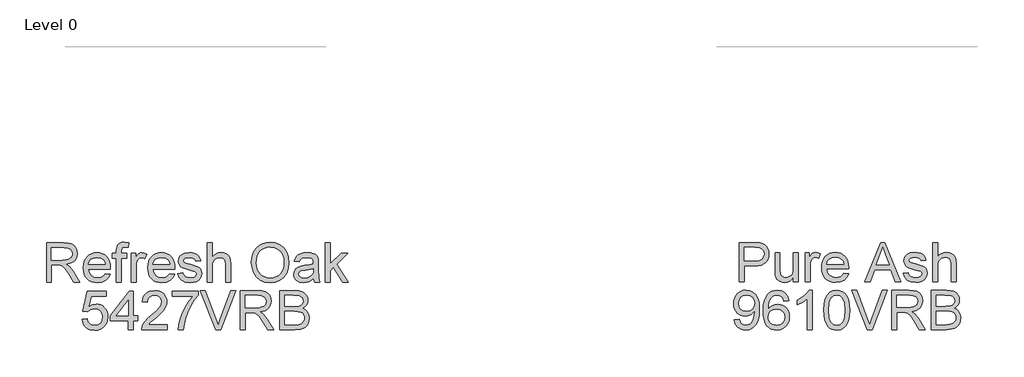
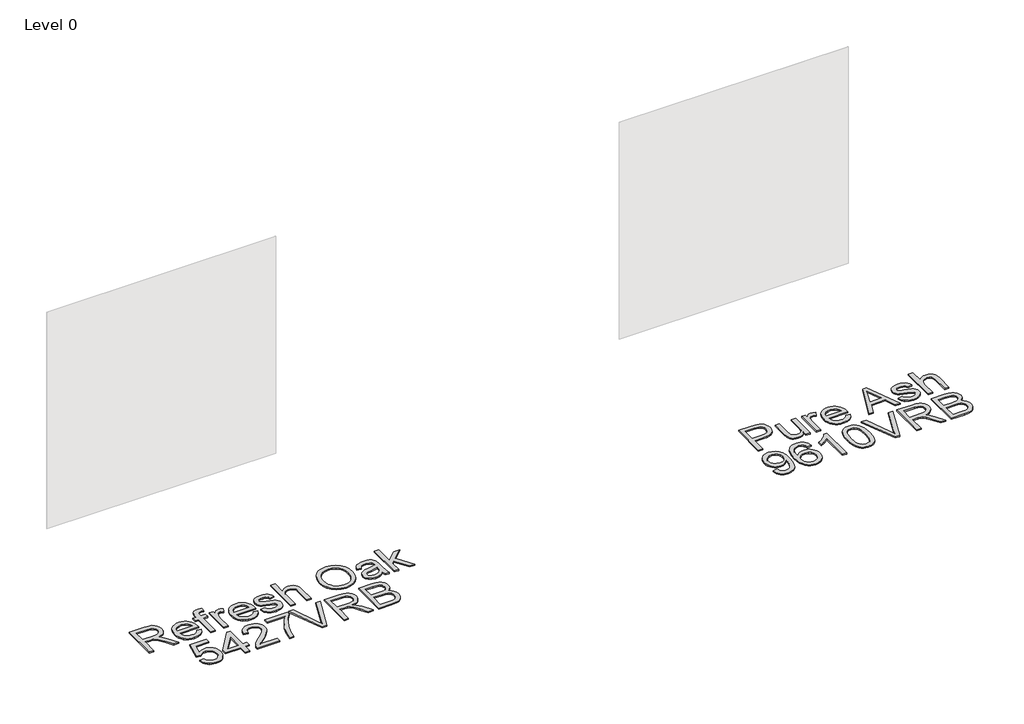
# One storey, part 16 of 43: 2 proxies.
"""IFC4 building model written with IfcOpenShell, lengths in millimetres."""

from ifc_helpers import new_model, si_unit, origin, origin_with_axes, place, context, project, spatial, polyline, outline, extrude, element, save

model = new_model("IFC4")

# Units and contexts
model_context = context("Model", 3, world=origin())
ifc_project = project(units=[si_unit("LENGTHUNIT", "METRE", prefix="MILLI")], contexts=[model_context])

# Site, building, storey
site = spatial("IfcSite", under=ifc_project)
building = spatial("IfcBuilding", under=site)
storey = spatial("IfcBuildingStorey", under=building, Name="Level 0", Elevation=0.0)

# Proxies
placement = place(None, origin())
element("IfcBuildingElementProxy", 1, Name="300mm Arial", ObjectType="300mm Arial", at=placement, inside=storey, context=model_context, shape_type="SweptSolid", body=[
    extrude(outline(polyline([(-594.9182141, -37030.0303751), (-594.9182141, -36728.6614447), (-465.0558698, -36728.6614447), (-430.1530655, -36730.6939927), (-404.7600108, -36736.7916368), (-386.2003641, -36748.0488258), (-371.797784, -36765.5600088), (-362.5547489, -36787.2742436), (-359.4737372, -36811.140588), (-364.5780999, -36840.828665), (-379.8911879, -36865.4399705), (-391.4909671, -36875.4693534), (-405.8728538, -36883.4845823), (-442.9829501, -36893.4725785), (-421.572218, -36909.5858099), (-391.0380124, -36948.3605722), (-340.7853318, -37030.0303751), (-384.5632893, -37030.0303751), (-423.7795099, -36967.5640123), (-452.1064236, -36926.2140761), (-472.0088395, -36906.6795421), (-489.9246927, -36899.5058432), (-511.7768832, -36898.181468), (-557.2470978, -36898.181468), (-557.2470978, -37030.0303751), (-594.9182141, -37030.0303751)]), holes=[polyline([(-557.2470978, -36860.5103517), (-472.9285445, -36860.5103517), (-448.7127122, -36859.1767795), (-429.9231393, -36855.1760628), (-415.7780766, -36848.2414872), (-405.4957748, -36838.1063382), (-399.2325838, -36825.8466707), (-397.1448535, -36812.5385396), (-401.1271761, -36794.1628339), (-413.0741439, -36779.3555836), (-433.6295504, -36769.5883166), (-463.437189, -36766.332561), (-557.2470978, -36766.332561), (-557.2470978, -36860.5103517)])]), origin_with_axes(), (0.0, 0.0, 1.0), 10.0),
    extrude(outline(polyline([(-143.3062768, -36964.1059216), (-106.3709245, -36968.8148111), (-119.6790557, -36996.6450841), (-140.9150439, -37017.4488109), (-169.6006424, -37030.4166512), (-205.2576048, -37034.7392647), (-228.6319071, -37032.8745628), (-249.4586265, -37027.2804572), (-267.7377632, -37017.9569479), (-283.469317, -37004.9040349), (-296.1198591, -36988.4850016), (-305.1559606, -36969.0631315), (-310.5776215, -36946.6384246), (-312.3848418, -36921.2108809), (-310.5592274, -36894.9211139), (-305.0823842, -36871.7491467), (-295.9543122, -36851.6949794), (-283.1750114, -36834.7586121), (-267.4848443, -36821.3033281), (-249.6241734, -36811.692411), (-229.5929988, -36805.9258607), (-207.3913204, -36804.0036773), (-185.9047126, -36805.9212622), (-166.4736455, -36811.6740169), (-149.098119, -36821.2619414), (-133.7781332, -36834.6850357), (-121.2724446, -36851.5846148), (-112.3398099, -36871.6019939), (-106.9802291, -36894.7371729), (-105.1937021, -36920.9901518), (-105.4144313, -36931.1436948), (-274.7137255, -36931.1436948), (-268.1930171, -36959.3418497), (-253.045476, -36980.0720002), (-231.1840884, -36992.8191113), (-204.5218408, -36997.0681484), (-184.4722721, -36995.0999797), (-167.5864885, -36989.1954737), (-153.8644901, -36978.9867483), (-143.3062768, -36964.1059216)]), holes=[polyline([(-274.7137255, -36893.4725785), (-142.8648184, -36893.4725785), (-147.9599841, -36873.5701626), (-157.9479802, -36859.3331294), (-179.9105353, -36846.0893775), (-207.5384732, -36841.6747936), (-232.9315279, -36845.1972637), (-253.9283928, -36855.764674), (-268.5241109, -36872.2365903), (-274.7137255, -36893.4725785)])]), origin_with_axes(), (0.0, 0.0, 1.0), 10.0),
    extrude(outline(polyline([(-58.1048067, -37030.0303751), (-58.1048067, -36846.3836831), (-91.0670335, -36846.3836831), (-91.0670335, -36808.7125668), (-58.1048067, -36808.7125668), (-58.1048067, -36786.4189179), (-54.1316812, -36755.0017955), (-46.5533121, -36742.4754136), (-34.8546646, -36732.5609938), (-18.4839159, -36726.1046648), (3.1107573, -36723.9525551), (37.4709356, -36728.0728335), (31.9527057, -36763.389505), (10.247668, -36761.6236714), (-4.0721387, -36763.1871699), (-13.4807207, -36767.8776654), (-18.695448, -36776.8355919), (-20.4336904, -36791.2013839), (-20.4336904, -36808.7125668), (21.9463154, -36808.7125668), (21.9463154, -36846.3836831), (-20.4336904, -36846.3836831), (-20.4336904, -37030.0303751), (-58.1048067, -37030.0303751)])), origin_with_axes(), (0.0, 0.0, 1.0), 10.0),
    extrude(outline(polyline([(54.9085422, -37030.0303751), (54.9085422, -36808.7125668), (87.8707689, -36808.7125668), (87.8707689, -36841.4540644), (100.047663, -36822.4713534), (111.2680638, -36811.2877408), (122.5252529, -36805.8246932), (134.8125115, -36804.0036773), (153.5744933, -36806.909945), (172.6307806, -36815.6287483), (160.0492164, -36849.4003155), (146.8054646, -36843.6061741), (133.5617127, -36841.6747936), (122.3137207, -36843.5325977), (112.2613452, -36849.1060099), (104.1403502, -36857.971966), (98.6864996, -36869.7074016), (94.1063688, -36890.7502517), (92.5796585, -36913.7060882), (92.5796585, -37030.0303751), (54.9085422, -37030.0303751)])), origin_with_axes(), (0.0, 0.0, 1.0), 10.0),
    extrude(outline(polyline([(351.1271247, -36964.1059216), (388.062477, -36968.8148111), (374.7543458, -36996.6450841), (353.5183577, -37017.4488109), (324.8327591, -37030.4166512), (289.1757967, -37034.7392647), (265.8014944, -37032.8745628), (244.974775, -37027.2804572), (226.6956383, -37017.9569479), (210.9640845, -37004.9040349), (198.3135424, -36988.4850016), (189.2774409, -36969.0631315), (183.85578, -36946.6384246), (182.0485597, -36921.2108809), (183.8741741, -36894.9211139), (189.3510173, -36871.7491467), (198.4790893, -36851.6949794), (211.2583901, -36834.7586121), (226.9485572, -36821.3033281), (244.8092281, -36811.692411), (264.8404027, -36805.9258607), (287.0420811, -36804.0036773), (308.5286889, -36805.9212622), (327.959756, -36811.6740169), (345.3352825, -36821.2619414), (360.6552684, -36834.6850357), (373.1609569, -36851.5846148), (382.0935916, -36871.6019939), (387.4531725, -36894.7371729), (389.2396994, -36920.9901518), (389.0189702, -36931.1436948), (219.719676, -36931.1436948), (226.2403844, -36959.3418497), (241.3879255, -36980.0720002), (263.2493131, -36992.8191113), (289.9115607, -36997.0681484), (309.9611294, -36995.0999797), (326.846913, -36989.1954737), (340.5689114, -36978.9867483), (351.1271247, -36964.1059216)]), holes=[polyline([(219.719676, -36893.4725785), (351.5685831, -36893.4725785), (346.4734175, -36873.5701626), (336.4854213, -36859.3331294), (314.5228662, -36846.0893775), (286.8949283, -36841.6747936), (261.5018736, -36845.1972637), (240.5050087, -36855.764674), (225.9092906, -36872.2365903), (219.719676, -36893.4725785)])]), origin_with_axes(), (0.0, 0.0, 1.0), 10.0),
    extrude(outline(polyline([(412.7841471, -36964.1059216), (450.4552634, -36959.397032), (456.3965576, -36975.5102634), (467.89287, -36987.3560637), (485.0177768, -36994.6401272), (507.8448546, -36997.0681484), (530.3960209, -36994.8424623), (546.2517349, -36988.1654041), (555.6327258, -36978.4901076), (558.7597228, -36967.2697067), (555.6143317, -36957.6679867), (546.1781585, -36950.347135), (507.4033962, -36939.6049807), (450.6759926, -36921.1740927), (436.3193977, -36911.9126635), (425.9175343, -36899.652996), (419.599161, -36885.1768395), (417.4930366, -36869.2659432), (419.1852938, -36854.6702251), (424.2620653, -36841.196547), (432.2634987, -36829.3783379), (442.7297415, -36819.7490267), (466.6788594, -36808.6022022), (499.0892632, -36804.0036773), (523.6085981, -36805.8522843), (544.9273598, -36811.3981054), (562.0706607, -36820.0985146), (574.0636138, -36831.4108859), (582.0098649, -36846.172151), (587.01306, -36865.2192413), (549.3419437, -36869.9281308), (544.5870689, -36858.0731335), (535.1784869, -36849.1427981), (521.0242271, -36843.5417947), (502.0323191, -36841.6747936), (480.4008578, -36843.4590213), (465.9798836, -36848.8117043), (457.8680856, -36856.5372262), (455.1641529, -36865.4399705), (459.6523133, -36876.4028539), (473.7054055, -36884.716987), (506.1525975, -36892.7368145), (561.4452613, -36910.4687267), (576.0501765, -36918.9484067), (587.1234246, -36930.5550836), (594.1039855, -36945.3255457), (596.4308391, -36963.2965812), (593.6993153, -36981.874622), (585.5047438, -36999.3490167), (572.1598244, -37014.3494051), (553.9772568, -37025.5054266), (532.0147017, -37032.4308051), (507.3298198, -37034.7392647), (469.3460038, -37030.2878925), (441.6260955, -37016.9337761), (423.1216311, -36994.8240682), (412.7841471, -36964.1059216)])), origin_with_axes(), (0.0, 0.0, 1.0), 10.0),
    extrude(outline(polyline([(638.8108449, -37030.0303751), (638.8108449, -36728.6614447), (676.4819612, -36728.6614447), (676.4819612, -36839.4675016), (690.3189228, -36823.9520785), (705.8573385, -36812.8696334), (723.0972085, -36806.2201663), (742.0385328, -36804.0036773), (764.7920342, -36806.4225014), (784.3449622, -36813.6789738), (799.7408237, -36825.2028773), (810.0231255, -36840.4239948), (815.8172669, -36861.3380862), (817.7486474, -36889.9409114), (817.7486474, -37030.0303751), (780.0775311, -37030.0303751), (780.0775311, -36893.8404605), (777.0792928, -36870.2592246), (768.084578, -36854.109205), (753.5900274, -36844.7833964), (734.0922817, -36841.6747936), (718.1721883, -36843.771721), (703.2269823, -36850.0625031), (690.8477531, -36859.9401347), (682.6255905, -36872.7976104), (678.0178686, -36889.8857291), (676.4819612, -36912.4552895), (676.4819612, -37030.0303751), (638.8108449, -37030.0303751)])), origin_with_axes(), (0.0, 0.0, 1.0), 10.0),
    extrude(outline(polyline([(977.8508917, -36883.3190354), (980.3616863, -36847.9701742), (987.8940701, -36816.677212), (1000.4480432, -36789.4401488), (1018.0236055, -36766.2589846), (1039.5676949, -36747.7499217), (1064.027249, -36734.5291625), (1091.402268, -36726.596707), (1121.6927518, -36723.9525551), (1161.2216722, -36728.9189621), (1196.6671024, -36743.8181829), (1226.097662, -36767.6017539), (1247.5819705, -36799.2212113), (1260.7153578, -36837.149845), (1265.0931535, -36879.8609447), (1260.4854315, -36923.1422614), (1246.6622656, -36961.604324), (1224.3870107, -36993.2789638), (1194.4230222, -37016.1980121), (1159.2810946, -37030.1039515), (1121.4720226, -37034.7392647), (1081.3360969, -37029.6165079), (1045.6883316, -37014.2482375), (1016.3313484, -36990.0232081), (995.067769, -36958.3301743), (982.155111, -36921.8638715), (977.8508917, -36883.3190354)]), holes=[polyline([(1015.522008, -36883.6869174), (1017.4051039, -36908.6615064), (1023.0543918, -36930.8309951), (1032.4698716, -36950.1953836), (1045.6515434, -36966.754672), (1061.6751035, -36980.0168179), (1079.6162486, -36989.4897793), (1099.4749785, -36995.1735561), (1121.2512934, -36997.0681484), (1143.4000888, -36995.155162), (1163.4933435, -36989.4162029), (1181.5310576, -36979.851271), (1197.513231, -36966.4603664), (1210.5983337, -36949.5515902), (1219.9448357, -36929.4330435), (1225.5527368, -36906.1047265), (1227.4220372, -36879.5666391), (1224.2214638, -36846.2181362), (1214.6197438, -36817.3945819), (1198.8651973, -36793.8225431), (1177.2061449, -36776.2285866), (1151.0773262, -36765.2749002), (1121.913481, -36761.6236714), (1100.8936235, -36763.3826072), (1081.3912792, -36768.6594146), (1063.4064482, -36777.4540935), (1046.9391304, -36789.7666441), (1033.1941393, -36806.1902759), (1023.3762886, -36827.3181987), (1017.4855781, -36853.1504126), (1015.522008, -36883.6869174)])]), origin_with_axes(), (0.0, 0.0, 1.0), 10.0),
    extrude(outline(polyline([(1453.448735, -37001.7770379), (1435.4501084, -37017.2096876), (1416.9180529, -37027.3080484), (1397.4295042, -37032.8814606), (1376.561398, -37034.7392647), (1345.0798963, -37030.2694984), (1321.8573454, -37016.8601997), (1307.5375387, -36996.4979313), (1302.7642698, -36971.1692559), (1304.5668916, -36955.5526652), (1309.9747569, -36941.3708143), (1318.3164812, -36929.2307084), (1328.9206797, -36919.739353), (1355.2978187, -36907.3785179), (1387.8921635, -36901.7131352), (1426.4094084, -36895.7534469), (1453.2280058, -36888.763689), (1453.448735, -36880.3759795), (1450.855167, -36863.5637723), (1443.0744628, -36852.5641006), (1425.6736444, -36844.3971204), (1401.4302209, -36841.6747936), (1378.9894192, -36843.4866124), (1363.3176462, -36848.9220689), (1352.6306743, -36858.9744444), (1345.1442757, -36874.6370204), (1307.4731594, -36869.9281308), (1314.0122618, -36849.3267391), (1323.7703317, -36833.1399313), (1337.6578771, -36820.7607022), (1356.5854057, -36811.5820464), (1379.7343803, -36805.8982696), (1406.2862633, -36804.0036773), (1431.7528944, -36805.6775404), (1451.9404189, -36810.6991296), (1467.1615364, -36818.2499075), (1477.7289467, -36827.5113368), (1484.7370987, -36838.9616639), (1489.2804414, -36853.0791354), (1491.1198513, -36886.0413622), (1491.1198513, -36932.9095284), (1493.0328377, -36998.3557353), (1500.5376304, -37030.0303751), (1462.8665141, -37030.0303751), (1453.448735, -37001.7770379)]), holes=[polyline([(1453.448735, -36926.4348053), (1392.6746294, -36937.9862999), (1360.2642257, -36944.093141), (1345.5857341, -36954.0259549), (1340.4353861, -36968.5205055), (1343.2404863, -36979.7225123), (1351.655787, -36988.9011681), (1365.497347, -36995.0264033), (1384.5812255, -36997.0681484), (1404.8147353, -36994.8148711), (1422.6938002, -36988.0550395), (1437.1883509, -36978.0946345), (1447.2683175, -36966.2396372), (1451.7380838, -36954.0259549), (1453.2280058, -36937.1033831), (1453.448735, -36926.4348053)])]), origin_with_axes(), (0.0, 0.0, 1.0), 10.0),
    extrude(outline(polyline([(1542.9176363, -37030.0303751), (1542.9176363, -36728.6614447), (1580.5887526, -36728.6614447), (1580.5887526, -36890.6030989), (1665.0544587, -36808.7125668), (1717.1465492, -36808.7125668), (1631.6507735, -36891.6331685), (1721.8554387, -37030.0303751), (1677.8567521, -37030.0303751), (1604.6482351, -36917.8263666), (1580.5887526, -36941.1500851), (1580.5887526, -37030.0303751), (1542.9176363, -37030.0303751)])), origin_with_axes(), (0.0, 0.0, 1.0), 10.0),
    extrude(outline(polyline([(-321.8026209, -37315.9037065), (-284.1315046, -37311.194817), (-277.2153231, -37333.8103626), (-265.1487936, -37350.0063675), (-247.9870986, -37359.7460433), (-225.7854201, -37362.9926019), (-198.7828817, -37358.4768504), (-178.549372, -37344.9295959), (-165.9126254, -37323.914337), (-161.7003766, -37296.994572), (-165.645911, -37271.6475025), (-177.4825142, -37252.2601213), (-197.3021567, -37239.9544686), (-225.196809, -37235.8525844), (-243.4713471, -37237.4896592), (-258.2694003, -37242.4008839), (-279.422615, -37259.397032), (-317.0937313, -37254.6881425), (-284.1315046, -37099.2947877), (-138.1559289, -37099.2947877), (-138.1559289, -37136.9659041), (-253.6708754, -37136.9659041), (-269.7841068, -37219.9600822), (-242.8735388, -37203.6261216), (-214.6753839, -37198.181468), (-196.3295686, -37199.8691267), (-179.478274, -37204.9321027), (-164.1215, -37213.3703959), (-150.2592465, -37225.1840065), (-138.7836275, -37239.650966), (-130.5867568, -37256.0493059), (-125.6686344, -37274.3790263), (-124.0292603, -37294.6401272), (-129.9337663, -37332.3112435), (-137.3143988, -37349.1050566), (-147.6472844, -37364.5377063), (-163.3006633, -37380.3428365), (-181.5660043, -37391.6322152), (-202.4433076, -37398.4058424), (-225.9325729, -37400.6637182), (-262.9323046, -37394.8603797), (-278.6109754, -37387.6062066), (-292.4088495, -37377.4503643), (-303.889067, -37364.8986905), (-312.6147681, -37350.4570229), (-321.8026209, -37315.9037065)])), origin_with_axes(), (0.0, 0.0, 1.0), 10.0),
    extrude(outline(polyline([(31.3640945, -37395.9548287), (31.3640945, -37325.3214856), (-105.1937021, -37325.3214856), (-105.1937021, -37287.6503693), (40.7818736, -37099.2947877), (69.0352108, -37099.2947877), (69.0352108, -37287.6503693), (106.7063271, -37287.6503693), (106.7063271, -37325.3214856), (69.0352108, -37325.3214856), (69.0352108, -37395.9548287), (31.3640945, -37395.9548287)]), holes=[polyline([(31.3640945, -37287.6503693), (31.3640945, -37171.252506), (-58.8405707, -37287.6503693), (31.3640945, -37287.6503693)])]), origin_with_axes(), (0.0, 0.0, 1.0), 10.0),
    extrude(outline(polyline([(332.7330249, -37358.2837124), (332.7330249, -37395.9548287), (134.9596643, -37395.9548287), (139.0063663, -37369.9823598), (148.2953867, -37349.6844707), (161.8886264, -37329.9935869), (181.551919, -37309.3829981), (209.0510982, -37286.3259941), (249.7020586, -37250.2183763), (274.0926349, -37223.5653257), (286.287923, -37201.9338644), (290.3530191, -37180.8910143), (286.5178493, -37162.027865), (275.0123399, -37146.3468949), (257.326413, -37135.7794846), (234.9499906, -37132.2570145), (211.4515282, -37135.6967112), (193.1953842, -37146.0158011), (181.4139633, -37162.404944), (177.3396702, -37184.0547994), (139.6685539, -37179.3459099), (148.8012244, -37142.9071983), (157.347583, -37128.3712609), (168.5472905, -37116.2909359), (182.1428295, -37106.7949819), (197.8766826, -37100.0121576), (235.759331, -37094.5858982), (255.9491548, -37096.0942144), (273.917891, -37100.6191629), (289.6655396, -37108.1607438), (303.1921007, -37118.7189571), (314.0561159, -37131.5120535), (321.8161267, -37145.7582837), (326.4721332, -37161.4576479), (328.0241354, -37178.6101459), (326.3502723, -37196.6271666), (321.3286831, -37214.3314876), (312.4167417, -37232.3393113), (299.0718224, -37251.26684), (277.799046, -37273.8639915), (245.1035337, -37302.8806839), (201.7670346, -37339.1170604), (184.7708865, -37358.2837124), (332.7330249, -37358.2837124)])), origin_with_axes(), (0.0, 0.0, 1.0), 10.0),
    extrude(outline(polyline([(370.4041412, -37136.9659041), (370.4041412, -37099.2947877), (568.1775018, -37099.2947877), (568.1775018, -37129.7554169), (539.988544, -37165.4307734), (512.0754976, -37210.7998205), (487.4549951, -37261.7238857), (469.1436687, -37314.0642965), (460.1673481, -37353.2253349), (455.1641529, -37395.9548287), (417.4930366, -37395.9548287), (421.5673297, -37357.1248841), (432.4658338, -37310.9740878), (449.8942433, -37262.0549795), (473.5582527, -37214.9200988), (501.1861905, -37172.3101667), (530.5063855, -37136.9659041), (370.4041412, -37136.9659041)])), origin_with_axes(), (0.0, 0.0, 1.0), 10.0),
    extrude(outline(polyline([(704.2938401, -37395.9548287), (584.3643096, -37094.5858982), (624.6841763, -37094.5858982), (704.9560277, -37311.7098518), (721.2164118, -37360.6381571), (737.2560668, -37311.7098518), (817.7486474, -37094.5858982), (858.068514, -37094.5858982), (743.2157552, -37395.9548287), (704.2938401, -37395.9548287)])), origin_with_axes(), (0.0, 0.0, 1.0), 10.0),
    extrude(outline(polyline([(893.09088, -37395.9548287), (893.09088, -37094.5858982), (1022.9532243, -37094.5858982), (1057.8560286, -37096.6184462), (1083.2490833, -37102.7160903), (1101.8087299, -37113.9732794), (1116.2113101, -37131.4844623), (1125.4543452, -37153.1986971), (1128.5353569, -37177.0650415), (1123.4309942, -37206.7531185), (1108.1179062, -37231.364424), (1096.518127, -37241.3938069), (1082.1362403, -37249.4090359), (1045.026144, -37259.397032), (1066.4368761, -37275.5102634), (1096.9710817, -37314.2850257), (1147.2237623, -37395.9548287), (1103.4458048, -37395.9548287), (1064.2295841, -37333.4884659), (1035.9026705, -37292.1385296), (1016.0002546, -37272.6039957), (998.0844014, -37265.4302968), (976.2322109, -37264.1059216), (930.7619963, -37264.1059216), (930.7619963, -37395.9548287), (893.09088, -37395.9548287)]), holes=[polyline([(930.7619963, -37226.4348053), (1015.0805496, -37226.4348053), (1039.2963819, -37225.101233), (1058.0859548, -37221.1005163), (1072.2310175, -37214.1659407), (1082.5133193, -37204.0307918), (1088.7765103, -37191.7711243), (1090.8642406, -37178.4629931), (1086.881918, -37160.0872874), (1074.9349502, -37145.2800371), (1054.3795437, -37135.5127702), (1024.5719051, -37132.2570145), (930.7619963, -37132.2570145), (930.7619963, -37226.4348053)])]), origin_with_axes(), (0.0, 0.0, 1.0), 10.0),
    extrude(outline(polyline([(1194.4598104, -37395.9548287), (1194.4598104, -37094.5858982), (1309.4597221, -37094.5858982), (1341.0883767, -37096.8023872), (1365.7824556, -37103.4518543), (1384.7099842, -37114.6998463), (1399.038988, -37130.7119101), (1408.0612939, -37149.5474683), (1411.0687292, -37169.2659432), (1408.5395405, -37187.4117226), (1400.9519743, -37204.4722502), (1388.2508484, -37219.3990621), (1370.3809805, -37231.1436948), (1391.7273333, -37242.2905193), (1407.5002738, -37259.2498792), (1417.2399497, -37280.8997347), (1420.4865083, -37306.1180454), (1418.2700193, -37327.1333044), (1411.6205522, -37346.6218531), (1401.6969354, -37363.194937), (1389.6579971, -37375.4638015), (1374.9151261, -37384.3481517), (1356.8797113, -37390.7676925), (1308.5768053, -37395.9548287), (1194.4598104, -37395.9548287)]), holes=[polyline([(1232.1309267, -37358.2837124), (1309.3861457, -37358.2837124), (1337.3451774, -37356.8121844), (1360.9999897, -37348.6084159), (1376.6717626, -37331.8697851), (1381.2794846, -37320.042379), (1382.815392, -37306.4859274), (1381.0127702, -37290.740578), (1375.6049049, -37277.2025206), (1366.1595346, -37266.6167162), (1352.2443982, -37259.7281258), (1332.5351203, -37255.9481383), (1305.7073258, -37254.6881425), (1232.1309267, -37254.6881425), (1232.1309267, -37358.2837124)]), polyline([(1232.1309267, -37217.0170262), (1300.9248598, -37217.0170262), (1341.0975737, -37213.7796646), (1355.159863, -37208.1970554), (1365.2674208, -37199.836937), (1371.3650649, -37188.8280683), (1373.3976129, -37175.2992079), (1371.5030206, -37162.1658207), (1365.8192438, -37150.7246907), (1356.6037998, -37141.7943552), (1344.1142061, -37136.1933519), (1295.7009355, -37132.2570145), (1232.1309267, -37132.2570145), (1232.1309267, -37217.0170262)])]), origin_with_axes(), (0.0, 0.0, 1.0), 10.0),
])
element("IfcBuildingElementProxy", 2, Name="300mm Arial", ObjectType="300mm Arial", at=placement, inside=storey, context=model_context, shape_type="SweptSolid", body=[
    extrude(outline(polyline([(4722.9318297, -37028.0303751), (4722.9318297, -36726.6614447), (4834.6208035, -36726.6614447), (4879.6495597, -36729.5309242), (4899.7267196, -36734.8928043), (4916.2538182, -36743.6208046), (4929.5619494, -36756.1103984), (4939.9822069, -36772.7570587), (4946.7144474, -36792.3927602), (4948.9585276, -36813.8494775), (4947.4433136, -36832.3493434), (4942.8976717, -36849.3684842), (4935.3216019, -36864.9068999), (4924.7151041, -36878.9645907), (4910.1538749, -36890.6172529), (4890.7136107, -36898.940583), (4866.3943115, -36903.9345811), (4837.1959774, -36905.5992471), (4760.602946, -36905.5992471), (4760.602946, -37028.0303751), (4722.9318297, -37028.0303751)]), holes=[polyline([(4760.602946, -36867.9281308), (4839.4032694, -36867.9281308), (4872.8069546, -36864.4700401), (4894.8798743, -36854.0957678), (4907.185527, -36837.4491075), (4911.2874113, -36815.1738527), (4908.8685871, -36798.2512809), (4901.6121148, -36783.9774595), (4890.4193051, -36773.2353053), (4876.1914689, -36766.9077349), (4838.5203526, -36764.332561), (4760.602946, -36764.332561), (4760.602946, -36867.9281308)])]), origin_with_axes(), (0.0, 0.0, 1.0), 10.0),
    extrude(outline(polyline([(5137.3141091, -37028.0303751), (5137.3141091, -36989.9913768), (5123.6840812, -37008.6935777), (5107.8099731, -37022.0522927), (5089.6917848, -37030.0675217), (5069.3295164, -37032.7392647), (5050.9814019, -37030.8630665), (5033.9024803, -37025.234472), (5019.5734765, -37016.7731861), (5009.4751158, -37006.3989138), (4998.2547149, -36978.6606114), (4996.0474229, -36943.6382454), (4996.0474229, -36806.7125668), (5033.7185393, -36806.7125668), (5033.7185393, -36925.9063333), (5035.9994076, -36964.3132136), (5041.4900464, -36977.124704), (5050.8986284, -36986.8643799), (5063.5997543, -36993.0172062), (5078.9680247, -36995.0681484), (5095.2192118, -36992.971221), (5110.4219352, -36986.6804389), (5122.9575142, -36976.7752161), (5131.207268, -36963.834967), (5135.7873988, -36946.1122518), (5137.3141091, -36921.8596313), (5137.3141091, -36806.7125668), (5174.9852254, -36806.7125668), (5174.9852254, -37028.0303751), (5137.3141091, -37028.0303751)])), origin_with_axes(), (0.0, 0.0, 1.0), 10.0),
    extrude(outline(polyline([(5226.7830103, -37028.0303751), (5226.7830103, -36806.7125668), (5259.7452371, -36806.7125668), (5259.7452371, -36839.4540644), (5271.9221311, -36820.4713534), (5283.142532, -36809.2877408), (5294.399721, -36803.8246932), (5306.6869797, -36802.0036773), (5325.4489614, -36804.909945), (5344.5052488, -36813.6287483), (5331.9236845, -36847.4003155), (5318.6799327, -36841.6061741), (5305.4361809, -36839.6747936), (5294.1881889, -36841.5325977), (5284.1358134, -36847.1060099), (5276.0148183, -36855.971966), (5270.5609677, -36867.7074016), (5265.9808369, -36888.7502517), (5264.4541266, -36911.7060882), (5264.4541266, -37028.0303751), (5226.7830103, -37028.0303751)])), origin_with_axes(), (0.0, 0.0, 1.0), 10.0),
    extrude(outline(polyline([(5523.0015928, -36962.1059216), (5559.9369452, -36966.8148111), (5546.628814, -36994.6450841), (5525.3928258, -37015.4488109), (5496.7072272, -37028.4166512), (5461.0502649, -37032.7392647), (5437.6759626, -37030.8745628), (5416.8492431, -37025.2804572), (5398.5701065, -37015.9569479), (5382.8385527, -37002.9040349), (5370.1880106, -36986.4850016), (5361.1519091, -36967.0631315), (5355.7302482, -36944.6384246), (5353.9230279, -36919.2108809), (5355.7486423, -36892.9211139), (5361.2254855, -36869.7491467), (5370.3535575, -36849.6949794), (5383.1328583, -36832.7586121), (5398.8230254, -36819.3033281), (5416.6836962, -36809.692411), (5436.7148709, -36803.9258607), (5458.9165493, -36802.0036773), (5480.4031571, -36803.9212622), (5499.8342242, -36809.6740169), (5517.2097507, -36819.2619414), (5532.5297365, -36832.6850357), (5545.0354251, -36849.5846148), (5553.9680598, -36869.6019939), (5559.3276406, -36892.7371729), (5561.1141675, -36918.9901518), (5560.8934383, -36929.1436948), (5391.5941442, -36929.1436948), (5398.1148525, -36957.3418497), (5413.2623937, -36978.0720002), (5435.1237812, -36990.8191113), (5461.7860288, -36995.0681484), (5481.8355976, -36993.0999797), (5498.7213812, -36987.1954737), (5512.4433796, -36976.9867483), (5523.0015928, -36962.1059216)]), holes=[polyline([(5391.5941442, -36891.4725785), (5523.4430512, -36891.4725785), (5518.3478856, -36871.5701626), (5508.3598894, -36857.3331294), (5486.3973343, -36844.0893775), (5458.7693965, -36839.6747936), (5433.3763418, -36843.1972637), (5412.3794769, -36853.764674), (5397.7837587, -36870.2365903), (5391.5941442, -36891.4725785)])]), origin_with_axes(), (0.0, 0.0, 1.0), 10.0),
    extrude(outline(polyline([(5686.1204695, -37028.0303751), (5806.4178819, -36726.6614447), (5838.4971919, -36726.6614447), (5958.7946043, -37028.0303751), (5918.9897724, -37028.0303751), (5884.4824413, -36933.8525844), (5760.3590561, -36933.8525844), (5725.9253014, -37028.0303751), (5686.1204695, -37028.0303751)]), holes=[polyline([(5774.1914191, -36896.181468), (5870.7236547, -36896.181468), (5843.5739634, -36822.0900342), (5822.4575369, -36764.332561), (5803.6955552, -36815.6153111), (5774.1914191, -36896.181468)])]), origin_with_axes(), (0.0, 0.0, 1.0), 10.0),
    extrude(outline(polyline([(5980.2053364, -36962.1059216), (6017.8764527, -36957.397032), (6023.817747, -36973.5102634), (6035.3140593, -36985.3560637), (6052.4389662, -36992.6401272), (6075.266044, -36995.0681484), (6097.8172103, -36992.8424623), (6113.6729243, -36986.1654041), (6123.0539152, -36976.4901076), (6126.1809121, -36965.2697067), (6123.0355211, -36955.6679867), (6113.5993479, -36948.347135), (6074.8245856, -36937.6049807), (6018.0971819, -36919.1740927), (6003.7405871, -36909.9126635), (5993.3387237, -36897.652996), (5987.0203504, -36883.1768395), (5984.914226, -36867.2659432), (5986.6064832, -36852.6702251), (5991.6832547, -36839.196547), (5999.6846881, -36827.3783379), (6010.1509309, -36817.7490267), (6034.1000487, -36806.6022022), (6066.5104525, -36802.0036773), (6091.0297875, -36803.8522843), (6112.3485491, -36809.3981054), (6129.4918501, -36818.0985146), (6141.4848031, -36829.4108859), (6149.4310542, -36844.172151), (6154.4342494, -36863.2192413), (6116.7631331, -36867.9281308), (6112.0082583, -36856.0731335), (6102.5996762, -36847.1427981), (6088.4454165, -36841.5417947), (6069.4535085, -36839.6747936), (6047.8220472, -36841.4590213), (6033.4010729, -36846.8117043), (6025.289275, -36854.5372262), (6022.5853423, -36863.4399705), (6027.0735026, -36874.4028539), (6041.1265948, -36882.716987), (6073.5737868, -36890.7368145), (6128.8664507, -36908.4687267), (6143.4713659, -36916.9484067), (6154.544614, -36928.5550836), (6161.5251748, -36943.3255457), (6163.8520284, -36961.2965812), (6161.1205046, -36979.874622), (6152.9259332, -36997.3490167), (6139.5810138, -37012.3494051), (6121.3984462, -37023.5054266), (6099.4358911, -37030.4308051), (6074.7510092, -37032.7392647), (6036.7671932, -37028.2878925), (6009.0472849, -37014.9337761), (5990.5428205, -36992.8240682), (5980.2053364, -36962.1059216)])), origin_with_axes(), (0.0, 0.0, 1.0), 10.0),
    extrude(outline(polyline([(6206.2320343, -37028.0303751), (6206.2320343, -36726.6614447), (6243.9031506, -36726.6614447), (6243.9031506, -36837.4675016), (6257.7401121, -36821.9520785), (6273.2785279, -36810.8696334), (6290.5183979, -36804.2201663), (6309.4597221, -36802.0036773), (6332.2132235, -36804.4225014), (6351.7661516, -36811.6789738), (6367.1620131, -36823.2028773), (6377.4443148, -36838.4239948), (6383.2384563, -36859.3380862), (6385.1698367, -36887.9409114), (6385.1698367, -37028.0303751), (6347.4987204, -37028.0303751), (6347.4987204, -36891.8404605), (6344.5004822, -36868.2592246), (6335.5057674, -36852.109205), (6321.0112168, -36842.7833964), (6301.513471, -36839.6747936), (6285.5933777, -36841.771721), (6270.6481716, -36848.0625031), (6258.2689425, -36857.9401347), (6250.0467799, -36870.7976104), (6245.4390579, -36887.8857291), (6243.9031506, -36910.4552895), (6243.9031506, -37028.0303751), (6206.2320343, -37028.0303751)])), origin_with_axes(), (0.0, 0.0, 1.0), 10.0),
    extrude(outline(polyline([(4682.9062687, -37318.612596), (4720.577385, -37313.9037065), (4727.0153199, -37335.2868475), (4737.4999567, -37349.8457774), (4751.7737781, -37358.2058958), (4769.5792667, -37360.9926019), (4785.5545424, -37359.1991772), (4800.0766841, -37353.818903), (4812.1432136, -37345.4403905), (4820.7516522, -37334.652251), (4833.0756991, -37301.9107535), (4838.5203526, -37258.2063724), (4838.2996234, -37250.8487325), (4825.2490096, -37266.7780229), (4808.170088, -37279.3963754), (4788.2952632, -37287.618538), (4766.85694, -37290.3592588), (4748.9617801, -37288.6853957), (4732.5059587, -37283.6638065), (4717.4894755, -37275.2944911), (4703.9123306, -37263.5774496), (4692.6620393, -37249.1242857), (4684.626117, -37232.5466033), (4679.8045636, -37213.8444023), (4678.1973791, -37193.0176829), (4679.8827385, -37171.4965862), (4684.9388167, -37152.1827814), (4693.3656136, -37135.0762687), (4705.1631294, -37120.1770478), (4719.4990309, -37108.1059199), (4735.5409851, -37099.4836856), (4753.2889921, -37094.3103451), (4772.7430519, -37092.5858982), (4800.8400393, -37096.5222356), (4826.417035, -37108.3312476), (4847.809373, -37127.4243232), (4863.3523873, -37153.212851), (4872.8161516, -37188.8606163), (4875.9707397, -37237.5314043), (4872.8253487, -37289.1360512), (4863.3891755, -37329.0236565), (4847.7449936, -37358.9968421), (4825.9755766, -37380.8582296), (4799.0190234, -37394.2123461), (4767.8134331, -37398.6637182), (4735.6053645, -37393.4122027), (4709.9088071, -37377.6576563), (4691.9377716, -37352.3933603), (4682.9062687, -37318.612596)]), holes=[polyline([(4838.2996234, -37192.1347661), (4834.2345274, -37166.6037556), (4822.0392392, -37146.9588571), (4803.1117106, -37134.4324752), (4778.849893, -37130.2570145), (4753.6867645, -37134.7543719), (4733.5268312, -37148.2464441), (4720.2830794, -37168.8938211), (4715.8684954, -37194.8570929), (4720.0439561, -37218.1348261), (4732.570338, -37236.6116993), (4752.2336306, -37248.6690317), (4777.8198234, -37252.6881425), (4801.8885029, -37248.6690317), (4821.266687, -37236.6116993), (4834.0413893, -37217.4542444), (4838.2996234, -37192.1347661)])]), origin_with_axes(), (0.0, 0.0, 1.0), 10.0),
    extrude(outline(polyline([(5101.9974376, -37172.6370204), (5064.3263213, -37177.3459099), (5058.2562683, -37158.6758986), (5050.0524998, -37145.9287875), (5032.9643812, -37134.1749578), (5012.3078071, -37130.2570145), (4994.7966242, -37132.5378829), (4978.3155108, -37139.380488), (4964.161251, -37153.7922652), (4952.6005593, -37173.6303017), (4944.792264, -37201.6905009), (4941.8951933, -37240.7687659), (4957.0059462, -37223.1380212), (4975.1149374, -37210.7128069), (4995.2104914, -37203.3459699), (5016.2809327, -37200.8903576), (5034.3807268, -37202.5688192), (5051.0825694, -37207.604204), (5066.3864604, -37215.996512), (5080.2923998, -37227.7457432), (5091.848493, -37242.1529219), (5100.1028453, -37258.5190721), (5105.0554566, -37276.844194), (5106.7063271, -37297.1282875), (5103.5977242, -37324.1032348), (5094.2719157, -37349.1100134), (5079.5014536, -37370.3184105), (5060.0588901, -37385.898213), (5036.8271421, -37395.4723419), (5010.6891264, -37398.6637182), (4988.2322298, -37396.5483967), (4967.9504356, -37390.2024323), (4949.8437436, -37379.6258249), (4933.912154, -37364.8185746), (4920.9236203, -37345.155282), (4911.6460962, -37320.0105476), (4906.0795818, -37289.3843715), (4904.224077, -37253.2767537), (4906.2842161, -37212.7959387), (4912.4646336, -37178.2472208), (4922.7653295, -37149.6306001), (4937.1863037, -37126.9460766), (4952.81669, -37111.9134985), (4970.9394768, -37101.1759428), (4991.5546641, -37094.7334094), (5014.6622519, -37092.5858982), (5047.7164492, -37097.901793), (5074.1855587, -37113.8494775), (5092.7268113, -37139.1781529), (5101.9974376, -37172.6370204)]), holes=[polyline([(4941.8951933, -37296.5396763), (4944.0748941, -37313.2323219), (4950.6139965, -37329.1708093), (4960.7675396, -37342.8744136), (4973.7905622, -37352.8624098), (4989.5083205, -37358.9600539), (5007.7460704, -37360.9926019), (5032.6056962, -37356.780353), (5052.1494272, -37344.1436065), (5064.8137649, -37324.2779788), (5069.0352108, -37298.3790863), (5064.8689472, -37273.5194605), (5052.3701564, -37254.5643407), (5032.4953316, -37242.5621906), (5006.200966, -37238.5614739), (4981.3781284, -37242.5621906), (4960.6203868, -37254.5643407), (4946.5764916, -37273.059608), (4941.8951933, -37296.5396763)])]), origin_with_axes(), (0.0, 0.0, 1.0), 10.0),
    extrude(outline(polyline([(5280.93524, -37393.9548287), (5243.2641237, -37393.9548287), (5243.2641237, -37159.0989629), (5207.5795702, -37184.5196088), (5167.9218911, -37203.539108), (5167.9218911, -37167.9281308), (5197.5088006, -37151.8332935), (5223.1409786, -37132.6850357), (5243.3468972, -37112.3227672), (5256.6550283, -37092.5858982), (5280.93524, -37092.5858982), (5280.93524, -37393.9548287)])), origin_with_axes(), (0.0, 0.0, 1.0), 10.0),
    extrude(outline(polyline([(5370.4041412, -37245.6983846), (5373.1724533, -37197.459858), (5381.4773893, -37158.9885983), (5395.2361759, -37129.6959945), (5414.3660397, -37108.9934352), (5439.0049363, -37096.6877825), (5469.2908215, -37092.5858982), (5492.5041754, -37095.0139194), (5513.2895082, -37102.2979829), (5530.6719324, -37114.1529802), (5543.676561, -37130.2938027), (5553.4990102, -37150.5824947), (5561.3348967, -37174.8811005), (5566.4668506, -37205.7372029), (5568.1775018, -37245.6983846), (5565.436781, -37293.6609997), (5557.2146184, -37332.0402889), (5543.5386052, -37361.3604839), (5524.4363326, -37382.1458166), (5499.7422537, -37394.5342428), (5469.2908215, -37398.6637182), (5448.542277, -37396.8702935), (5430.1481773, -37391.4900193), (5414.1085223, -37382.5228957), (5400.423312, -37369.9689226), (5387.2899248, -37347.275202), (5377.9089339, -37318.9988721), (5372.2803394, -37285.139933), (5370.4041412, -37245.6983846)]), holes=[polyline([(5408.0752575, -37245.6248082), (5412.4898415, -37304.8814006), (5418.0080714, -37325.1493992), (5425.7335933, -37339.1771996), (5445.4520683, -37355.5387513), (5469.2908215, -37360.9926019), (5493.1295748, -37355.5203572), (5512.8480498, -37339.1036232), (5520.5735717, -37325.0528302), (5526.0918016, -37304.7894301), (5530.5063855, -37245.6248082), (5526.2389544, -37187.7017881), (5520.9046655, -37167.500468), (5513.436661, -37153.1392746), (5493.7549742, -37135.9775795), (5468.8493631, -37130.2570145), (5445.2681273, -37135.2969978), (5426.3222045, -37150.4169478), (5418.3391652, -37166.0519326), (5412.6369943, -37187.131571), (5408.0752575, -37245.6248082)])]), origin_with_axes(), (0.0, 0.0, 1.0), 10.0),
    extrude(outline(polyline([(5704.2938401, -37393.9548287), (5584.3643096, -37092.5858982), (5624.6841763, -37092.5858982), (5704.9560277, -37309.7098518), (5721.2164118, -37358.6381571), (5737.2560668, -37309.7098518), (5817.7486474, -37092.5858982), (5858.068514, -37092.5858982), (5743.2157552, -37393.9548287), (5704.2938401, -37393.9548287)])), origin_with_axes(), (0.0, 0.0, 1.0), 10.0),
    extrude(outline(polyline([(5893.09088, -37393.9548287), (5893.09088, -37092.5858982), (6022.9532243, -37092.5858982), (6057.8560286, -37094.6184462), (6083.2490833, -37100.7160903), (6101.8087299, -37111.9732794), (6116.2113101, -37129.4844623), (6125.4543452, -37151.1986971), (6128.5353569, -37175.0650415), (6123.4309942, -37204.7531185), (6108.1179062, -37229.364424), (6096.518127, -37239.3938069), (6082.1362403, -37247.4090359), (6045.026144, -37257.397032), (6066.4368761, -37273.5102634), (6096.9710817, -37312.2850257), (6147.2237623, -37393.9548287), (6103.4458048, -37393.9548287), (6064.2295841, -37331.4884659), (6035.9026705, -37290.1385296), (6016.0002546, -37270.6039957), (5998.0844014, -37263.4302968), (5976.2322109, -37262.1059216), (5930.7619963, -37262.1059216), (5930.7619963, -37393.9548287), (5893.09088, -37393.9548287)]), holes=[polyline([(5930.7619963, -37224.4348053), (6015.0805496, -37224.4348053), (6039.2963819, -37223.101233), (6058.0859548, -37219.1005163), (6072.2310175, -37212.1659407), (6082.5133193, -37202.0307918), (6088.7765103, -37189.7711243), (6090.8642406, -37176.4629931), (6086.881918, -37158.0872874), (6074.9349502, -37143.2800371), (6054.3795437, -37133.5127702), (6024.5719051, -37130.2570145), (5930.7619963, -37130.2570145), (5930.7619963, -37224.4348053)])]), origin_with_axes(), (0.0, 0.0, 1.0), 10.0),
    extrude(outline(polyline([(6194.4598104, -37393.9548287), (6194.4598104, -37092.5858982), (6309.4597221, -37092.5858982), (6341.0883767, -37094.8023872), (6365.7824556, -37101.4518543), (6384.7099842, -37112.6998463), (6399.038988, -37128.7119101), (6408.0612939, -37147.5474683), (6411.0687292, -37167.2659432), (6408.5395405, -37185.4117226), (6400.9519743, -37202.4722502), (6388.2508484, -37217.3990621), (6370.3809805, -37229.1436948), (6391.7273333, -37240.2905193), (6407.5002738, -37257.2498792), (6417.2399497, -37278.8997347), (6420.4865083, -37304.1180454), (6418.2700193, -37325.1333044), (6411.6205522, -37344.6218531), (6401.6969354, -37361.194937), (6389.6579971, -37373.4638015), (6374.9151261, -37382.3481517), (6356.8797113, -37388.7676925), (6308.5768053, -37393.9548287), (6194.4598104, -37393.9548287)]), holes=[polyline([(6232.1309267, -37215.0170262), (6300.9248598, -37215.0170262), (6341.0975737, -37211.7796646), (6355.159863, -37206.1970554), (6365.2674208, -37197.836937), (6371.3650649, -37186.8280683), (6373.3976129, -37173.2992079), (6371.5030206, -37160.1658207), (6365.8192438, -37148.7246907), (6356.6037998, -37139.7943552), (6344.1142061, -37134.1933519), (6295.7009355, -37130.2570145), (6232.1309267, -37130.2570145), (6232.1309267, -37215.0170262)]), polyline([(6232.1309267, -37356.2837124), (6309.3861457, -37356.2837124), (6337.3451774, -37354.8121844), (6360.9999897, -37346.6084159), (6376.6717626, -37329.8697851), (6381.2794846, -37318.042379), (6382.815392, -37304.4859274), (6381.0127702, -37288.740578), (6375.6049049, -37275.2025206), (6366.1595346, -37264.6167162), (6352.2443982, -37257.7281258), (6332.5351203, -37253.9481383), (6305.7073258, -37252.6881425), (6232.1309267, -37252.6881425), (6232.1309267, -37356.2837124)])]), origin_with_axes(), (0.0, 0.0, 1.0), 10.0),
])

save(model, "model.ifc")
